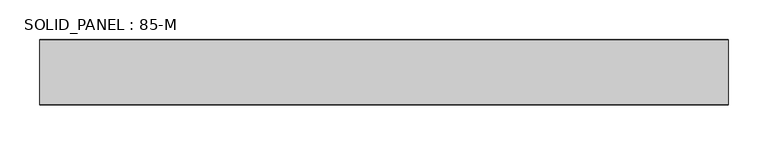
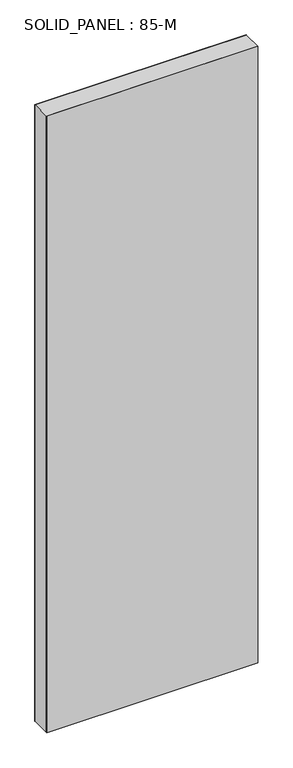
"""IFC4 building model written with IfcOpenShell, lengths in millimetres: plate geometry, SOLID_PANEL : 85-M."""

from ifc_helpers import new_model, si_unit, origin, origin_with_axes, place, context, project, spatial, polyline, outline, extrude, source, transform, mapped, element, save


def solid_panel_85_m_cd444500(model_context):
    return source(origin(), model_context, "Body", "SweptSolid", [
        extrude(outline(polyline([(434.75, -40.5), (-434.75, -40.5), (-434.75, 40.5), (434.75, 40.5), (434.75, -40.5)])), origin_with_axes(), (0.0, 0.0, 1.0), 2685.0),
        extrude(outline(polyline([(434.75, -41.5), (-434.75, -41.5), (-434.75, -40.5), (434.75, -40.5), (434.75, -41.5)])), origin_with_axes(), (0.0, 0.0, 1.0), 2685.0),
        extrude(outline(polyline([(434.75, 40.5), (-434.75, 40.5), (-434.75, 41.5), (434.75, 41.5), (434.75, 40.5)])), origin_with_axes(), (0.0, 0.0, 1.0), 2685.0),
    ])


if __name__ == "__main__":
    model = new_model("IFC4")
    model_context = context("Model", 3, world=origin())
    ifc_project = project(units=[si_unit("LENGTHUNIT", "METRE", prefix="MILLI")], contexts=[model_context])
    site = spatial("IfcSite", under=ifc_project)
    building = spatial("IfcBuilding", under=site)
    placement = place(None, origin())
    solid_panel_85_m_shape = solid_panel_85_m_cd444500(model_context)
    element("IfcPlate", 1, ObjectType="SOLID_PANEL : 85-M", at=placement, inside=building, context=model_context, shape_type="MappedRepresentation", body=[
        mapped(solid_panel_85_m_shape, transform((0.0, 0.0, 0.0), x_axis=(1.0, 0.0, 0.0), y_axis=(0.0, 1.0, 0.0), z_axis=(0.0, 0.0, 1.0))),
    ])
    save(model, "model.ifc")
